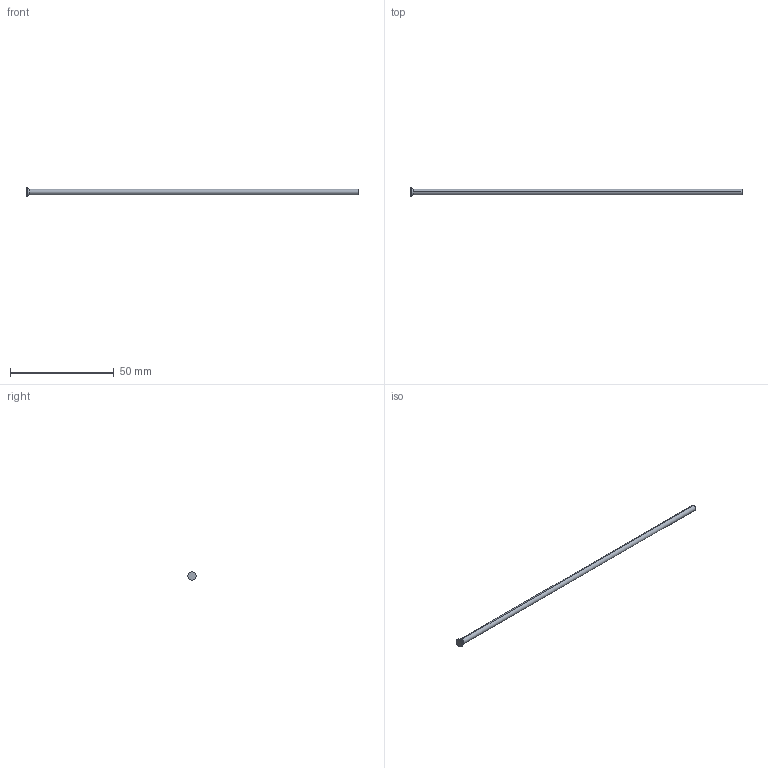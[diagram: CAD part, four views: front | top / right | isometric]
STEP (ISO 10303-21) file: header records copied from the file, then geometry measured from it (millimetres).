
FILE_DESCRIPTION (( 'STEP AP214' ), '1' );
FILE_NAME ('D-2,7x160.STEP', '2020-06-08T10:28:24', ( 'August' ), ( '' ), 'SwSTEP 2.0', 'SolidWorks 2018', '' );
FILE_SCHEMA (( 'AUTOMOTIVE_DESIGN' ));
Length unit declared in the file: millimetre
Products named in the file (1): D-2,7x160
Bounding box: 160 x 4 x 4 mm (x, y, z)
Volume: 923.2 mm3; surface area: 1381.6 mm2
Topology: 1 solids, 1 shells, 10 faces, 18 edges, 10 vertices
Faces by surface type: cylinder 4, torus 2, cone 2, plane 2
Entity records: 280 total; most frequent: DIRECTION 52, CARTESIAN_POINT 39, ORIENTED_EDGE 36, AXIS2_PLACEMENT_3D 23, EDGE_CURVE 18, CIRCLE 12, EDGE_LOOP 10, FACE_OUTER_BOUND 10
